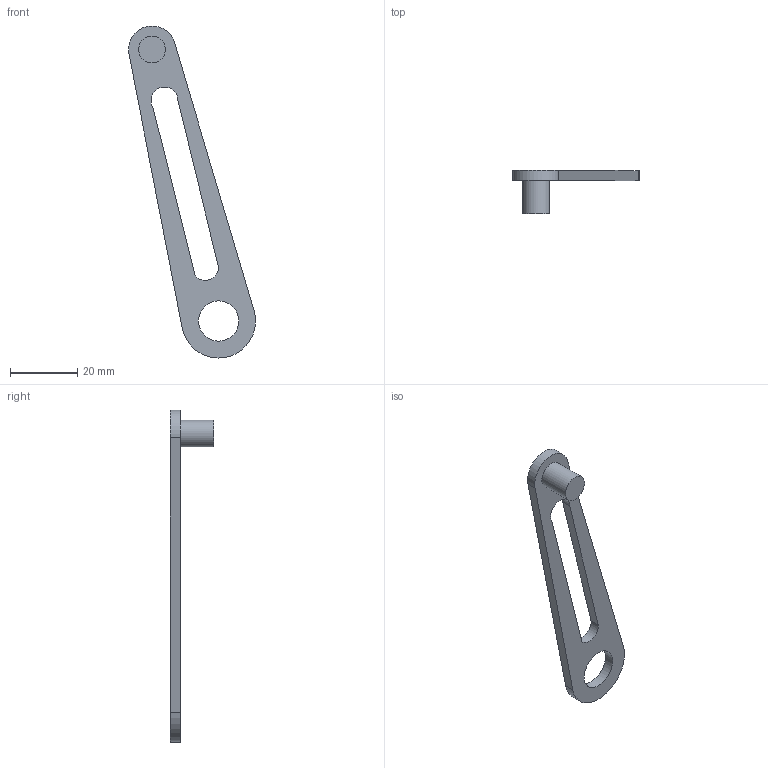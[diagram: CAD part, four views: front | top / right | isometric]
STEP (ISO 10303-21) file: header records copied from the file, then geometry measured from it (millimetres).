
FILE_DESCRIPTION(('STEP AP242'), '1');
FILE_NAME('扻錼罿鳪', '', ('UNSPECIFIED'), ('UNSPECIFIED'), 'C3D Converter', 'C3D Toolkit', '');
FILE_SCHEMA(('AP242_MANAGED_MODEL_BASED_3D_ENGINEERING_MIM_LF { 1 0 10303 442 1 1 4 }'));
Length unit declared in the file: millimetre
Bounding box: 37.78 x 13 x 98.78 mm (x, y, z)
Volume: 4160.2 mm3; surface area: 3853 mm2
Topology: 1 solids, 1 shells, 13 faces, 30 edges, 20 vertices
Faces by surface type: plane 7, cylinder 6
Full cylindrical faces by diameter (mm): 8 x1, 12 x1
Entity records: 414 total; most frequent: DIRECTION 68, CARTESIAN_POINT 62, ORIENTED_EDGE 56, EDGE_CURVE 28, AXIS2_PLACEMENT_3D 26, EDGE_LOOP 20, VERTEX_POINT 20, FACE_BOUND 16
